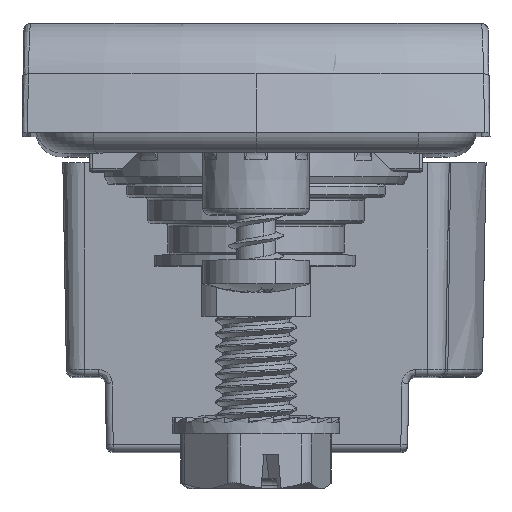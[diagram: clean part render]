
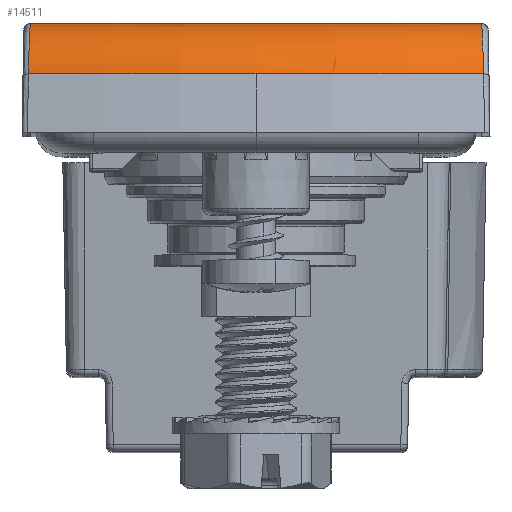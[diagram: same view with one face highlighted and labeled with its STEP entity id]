
A CAD part, top view. The second image highlights one B-rep face of the part: STEP entity #14511.
In plain terms, the highlighted toroidal (fillet/blend) face has major radius 74.02 mm and minor radius 5 mm.
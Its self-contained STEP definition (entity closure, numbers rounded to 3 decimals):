
#97 = CARTESIAN_POINT ( 'NONE',  ( -16.555, 7.648, 169.058 ) ) ;
#775 = CARTESIAN_POINT ( 'NONE',  ( 0., 4.294, 95. ) ) ;
#1146 = CARTESIAN_POINT ( 'NONE',  ( 16.658, 4.802, 171.93 ) ) ;
#1152 = DIRECTION ( 'NONE',  ( 1., 0., 0. ) ) ;
#1513 = CARTESIAN_POINT ( 'NONE',  ( 0., 3., 95. ) ) ;
#3919 = TOROIDAL_SURFACE ( 'NONE', #62761, 74.02, 5. ) ;
#5498 = CARTESIAN_POINT ( 'NONE',  ( 16.549, 7.717, 168.848 ) ) ;
#6871 = VERTEX_POINT ( 'NONE', #39140 ) ;
#6948 = CARTESIAN_POINT ( 'NONE',  ( -16.62, 6.218, 171.092 ) ) ;
#10927 = CARTESIAN_POINT ( 'NONE',  ( 16.596, 6.822, 170.441 ) ) ;
#11615 = CARTESIAN_POINT ( 'NONE',  ( 16.593, 6.901, 170.343 ) ) ;
#12766 = EDGE_CURVE ( 'NONE', #57549, #58748, #61304, .T. ) ;
#14511 = ADVANCED_FACE ( 'NONE', ( #28238 ), #3919, .T. ) ;
#15996 = CARTESIAN_POINT ( 'NONE',  ( -16.515, 8., 167.468 ) ) ;
#16359 = CARTESIAN_POINT ( 'NONE',  ( -16.547, 7.749, 168.752 ) ) ;
#16690 = CARTESIAN_POINT ( 'NONE',  ( 16.592, 6.934, 170.3 ) ) ;
#16710 = CARTESIAN_POINT ( 'NONE',  ( -16.588, 7.019, 170.186 ) ) ;
#17046 = CARTESIAN_POINT ( 'NONE',  ( 16.548, 7.735, 168.795 ) ) ;
#17068 = CARTESIAN_POINT ( 'NONE',  ( -16.589, 6.992, 170.224 ) ) ;
#17400 = CARTESIAN_POINT ( 'NONE',  ( 16.551, 7.696, 168.908 ) ) ;
#17758 = CARTESIAN_POINT ( 'NONE',  ( 16.669, 4.294, 172.067 ) ) ;
#19958 = AXIS2_PLACEMENT_3D ( 'NONE', #36190, #57913, #31836 ) ;
#20893 = EDGE_CURVE ( 'NONE', #36224, #28102, #51108, .T. ) ;
#22111 = DIRECTION ( 'NONE',  ( -1., 0., 0. ) ) ;
#22117 = CARTESIAN_POINT ( 'NONE',  ( 16.566, 7.468, 169.447 ) ) ;
#22133 = CARTESIAN_POINT ( 'NONE',  ( -16.581, 7.168, 169.97 ) ) ;
#23177 = CARTESIAN_POINT ( 'NONE',  ( 16.557, 7.612, 169.125 ) ) ;
#23185 = DIRECTION ( 'NONE',  ( 0., -1., 0. ) ) ;
#27502 = CARTESIAN_POINT ( 'NONE',  ( 16.576, 7.276, 169.811 ) ) ;
#27519 = CARTESIAN_POINT ( 'NONE',  ( -16.576, 7.275, 169.801 ) ) ;
#28102 = VERTEX_POINT ( 'NONE', #52188 ) ;
#28238 = FACE_OUTER_BOUND ( 'NONE', #59837, .T. ) ;
#28935 = CARTESIAN_POINT ( 'NONE',  ( 16.554, 7.652, 169.026 ) ) ;
#29311 = CARTESIAN_POINT ( 'NONE',  ( -16.658, 4.803, 171.93 ) ) ;
#30231 = CIRCLE ( 'NONE', #46379, 78.849 ) ;
#31836 = DIRECTION ( 'NONE',  ( 1., 0., 0. ) ) ;
#32618 = CARTESIAN_POINT ( 'NONE',  ( -16.532, 7.902, 168.169 ) ) ;
#32976 = CARTESIAN_POINT ( 'NONE',  ( -16.542, 7.802, 168.578 ) ) ;
#33322 = CARTESIAN_POINT ( 'NONE',  ( -16.546, 7.755, 168.731 ) ) ;
#33667 = CARTESIAN_POINT ( 'NONE',  ( 16.59, 6.968, 170.256 ) ) ;
#33687 = CARTESIAN_POINT ( 'NONE',  ( -16.545, 7.771, 168.68 ) ) ;
#34375 = CARTESIAN_POINT ( 'NONE',  ( 16.626, 5.986, 171.248 ) ) ;
#35007 = CARTESIAN_POINT ( 'NONE',  ( 16.669, 4.294, 172.067 ) ) ;
#36190 = CARTESIAN_POINT ( 'NONE',  ( 0., 8., 95. ) ) ;
#36224 = VERTEX_POINT ( 'NONE', #49485 ) ;
#37680 = B_SPLINE_CURVE_WITH_KNOTS ( 'NONE', 3,
 ( #17758, #1146, #61847, #34375, #45221, #61134, #39060, #50274, #10927, #11615, #16690, #56099, #33667, #55018, #27502, #22117, #44519, #23177, #28935, #17400, #5498, #38375, #44162, #17046, #55731, #56445, #38731 ),
 .UNSPECIFIED., .F., .F.,
 ( 4, 2, 2, 2, 1, 1, 2, 2, 2, 2, 1, 1, 1, 2, 2, 4 ),
 ( 0., 0.25, 0.375, 0.438, 0.469, 0.484, 0.492, 0.5, 0.625, 0.688, 0.719, 0.734, 0.742, 0.746, 0.75, 1. ),
 .UNSPECIFIED. ) ;
#38375 = CARTESIAN_POINT ( 'NONE',  ( 16.549, 7.725, 168.822 ) ) ;
#38395 = CARTESIAN_POINT ( 'NONE',  ( -16.547, 7.742, 168.772 ) ) ;
#38417 = ORIENTED_EDGE ( 'NONE', *, *, #47244, .T. ) ;
#38731 = CARTESIAN_POINT ( 'NONE',  ( 16.509, 8., 167.155 ) ) ;
#39060 = CARTESIAN_POINT ( 'NONE',  ( 16.605, 6.61, 170.682 ) ) ;
#39140 = CARTESIAN_POINT ( 'NONE',  ( -16.669, 4.294, 172.067 ) ) ;
#41553 = ORIENTED_EDGE ( 'NONE', *, *, #12766, .F. ) ;
#43817 = CARTESIAN_POINT ( 'NONE',  ( -16.547, 7.744, 168.766 ) ) ;
#44162 = CARTESIAN_POINT ( 'NONE',  ( 16.548, 7.731, 168.805 ) ) ;
#44519 = CARTESIAN_POINT ( 'NONE',  ( 16.562, 7.529, 169.321 ) ) ;
#45221 = CARTESIAN_POINT ( 'NONE',  ( 16.619, 6.205, 171.074 ) ) ;
#46379 = AXIS2_PLACEMENT_3D ( 'NONE', #775, #50622, #22111 ) ;
#47244 = EDGE_CURVE ( 'NONE', #57549, #28102, #37680, .T. ) ;
#49485 = CARTESIAN_POINT ( 'NONE',  ( -16.509, 8., 167.155 ) ) ;
#49579 = CARTESIAN_POINT ( 'NONE',  ( -16.54, 7.827, 168.486 ) ) ;
#50274 = CARTESIAN_POINT ( 'NONE',  ( 16.599, 6.753, 170.522 ) ) ;
#50622 = DIRECTION ( 'NONE',  ( 0., -1., 0. ) ) ;
#51010 = CARTESIAN_POINT ( 'NONE',  ( -16.669, 4.294, 172.067 ) ) ;
#51108 = CIRCLE ( 'NONE', #19958, 74.02 ) ;
#52188 = CARTESIAN_POINT ( 'NONE',  ( 16.509, 8., 167.155 ) ) ;
#54327 = CARTESIAN_POINT ( 'NONE',  ( -16.509, 8., 167.155 ) ) ;
#54756 = B_SPLINE_CURVE_WITH_KNOTS ( 'NONE', 3,
 ( #54327, #15996, #60106, #32618, #71291, #49579, #32976, #33687, #33322, #16359, #43817, #38395, #97, #60456, #66557, #27519, #22133, #66203, #55388, #16710, #60807, #17068, #61161, #6948, #62931, #29311, #51010 ),
 .UNSPECIFIED., .F., .F.,
 ( 4, 2, 2, 1, 1, 1, 2, 2, 2, 2, 1, 1, 2, 2, 2, 4 ),
 ( 0., 0.125, 0.187, 0.219, 0.234, 0.242, 0.246, 0.25, 0.375, 0.437, 0.469, 0.484, 0.492, 0.5, 0.75, 1. ),
 .UNSPECIFIED. ) ;
#55018 = CARTESIAN_POINT ( 'NONE',  ( 16.583, 7.132, 170.036 ) ) ;
#55388 = CARTESIAN_POINT ( 'NONE',  ( -16.587, 7.048, 170.146 ) ) ;
#55731 = CARTESIAN_POINT ( 'NONE',  ( 16.536, 7.887, 168.333 ) ) ;
#56099 = CARTESIAN_POINT ( 'NONE',  ( 16.591, 6.956, 170.271 ) ) ;
#56445 = CARTESIAN_POINT ( 'NONE',  ( 16.522, 8., 167.784 ) ) ;
#57549 = VERTEX_POINT ( 'NONE', #35007 ) ;
#57913 = DIRECTION ( 'NONE',  ( 0., 1., 0. ) ) ;
#58428 = EDGE_CURVE ( 'NONE', #36224, #6871, #54756, .T. ) ;
#58693 = ORIENTED_EDGE ( 'NONE', *, *, #62214, .F. ) ;
#58748 = VERTEX_POINT ( 'NONE', #67194 ) ;
#58984 = AXIS2_PLACEMENT_3D ( 'NONE', #68522, #62393, #63101 ) ;
#59837 = EDGE_LOOP ( 'NONE', ( #63325, #58693, #41553, #38417, #63404 ) ) ;
#60106 = CARTESIAN_POINT ( 'NONE',  ( -16.522, 7.972, 167.762 ) ) ;
#60456 = CARTESIAN_POINT ( 'NONE',  ( -16.562, 7.535, 169.319 ) ) ;
#60807 = CARTESIAN_POINT ( 'NONE',  ( -16.589, 7., 170.212 ) ) ;
#61134 = CARTESIAN_POINT ( 'NONE',  ( 16.608, 6.511, 170.783 ) ) ;
#61161 = CARTESIAN_POINT ( 'NONE',  ( -16.605, 6.635, 170.701 ) ) ;
#61304 = CIRCLE ( 'NONE', #58984, 78.849 ) ;
#61847 = CARTESIAN_POINT ( 'NONE',  ( 16.646, 5.3, 171.708 ) ) ;
#62214 = EDGE_CURVE ( 'NONE', #58748, #6871, #30231, .T. ) ;
#62393 = DIRECTION ( 'NONE',  ( 0., -1., 0. ) ) ;
#62761 = AXIS2_PLACEMENT_3D ( 'NONE', #1513, #23185, #1152 ) ;
#62931 = CARTESIAN_POINT ( 'NONE',  ( -16.646, 5.302, 171.707 ) ) ;
#63101 = DIRECTION ( 'NONE',  ( -1., 0., 0. ) ) ;
#63325 = ORIENTED_EDGE ( 'NONE', *, *, #58428, .T. ) ;
#63404 = ORIENTED_EDGE ( 'NONE', *, *, #20893, .F. ) ;
#66203 = CARTESIAN_POINT ( 'NONE',  ( -16.584, 7.114, 170.053 ) ) ;
#66557 = CARTESIAN_POINT ( 'NONE',  ( -16.573, 7.343, 169.684 ) ) ;
#67194 = CARTESIAN_POINT ( 'NONE',  ( 0., 4.294, 173.849 ) ) ;
#68522 = CARTESIAN_POINT ( 'NONE',  ( 0., 4.294, 95. ) ) ;
#71291 = CARTESIAN_POINT ( 'NONE',  ( -16.535, 7.874, 168.299 ) ) ;
